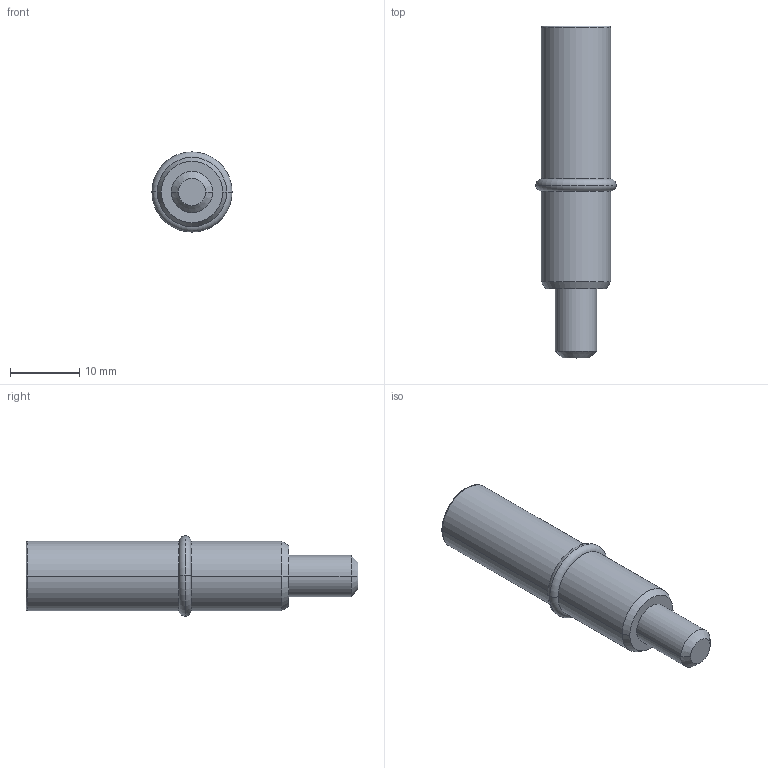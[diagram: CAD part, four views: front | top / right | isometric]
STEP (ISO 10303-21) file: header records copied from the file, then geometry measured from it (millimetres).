
FILE_DESCRIPTION (( 'STEP AP203' ), '1' );
FILE_NAME ('013.100.017.STEP', '2020-11-09T08:50:19', ( '' ), ( '' ), 'SwSTEP 2.0', 'SolidWorks 2018', '' );
FILE_SCHEMA (( 'CONFIG_CONTROL_DESIGN' ));
Length unit declared in the file: millimetre
Products named in the file (3): O-ring DIN 3771 - 8x1.8_O-ring DIN 3771 - 8x1.8; 013.100.017; 013.100.017A
Assembly tree (2 placements, depth 2):
  013.100.017
    013.100.017A
    O-ring DIN 3771 - 8x1.8_O-ring DIN 3771 - 8x1.8
Bounding box: 11.6 x 48 x 11.6 mm (x, y, z)
Volume: 3165.6 mm3; surface area: 1818.1 mm2
Topology: 2 solids, 2 shells, 30 faces, 62 edges, 38 vertices
Faces by surface type: plane 12, cylinder 8, torus 6, cone 4
Entity records: 1107 total; most frequent: DIRECTION 164, CARTESIAN_POINT 135, ORIENTED_EDGE 124, AXIS2_PLACEMENT_3D 67, EDGE_CURVE 62, VERTEX_POINT 38, EDGE_LOOP 34, CIRCLE 32
